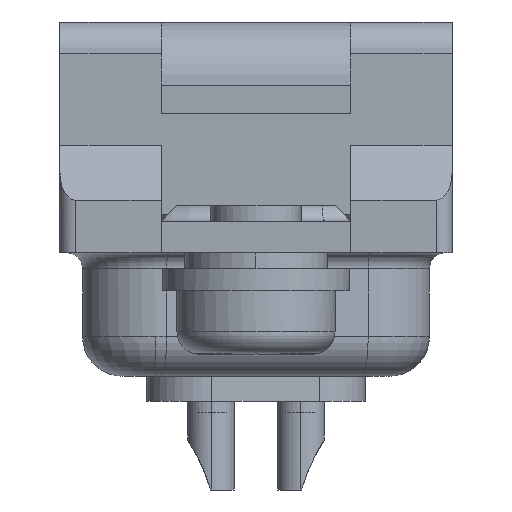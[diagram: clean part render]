
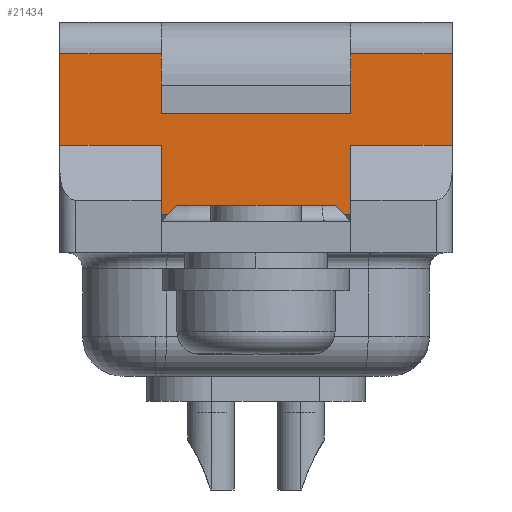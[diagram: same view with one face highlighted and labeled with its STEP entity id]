
A CAD part, left-side view. The second image highlights one B-rep face of the part: STEP entity #21434.
In plain terms, the highlighted planar face has unit normal (-1, 0, 0).
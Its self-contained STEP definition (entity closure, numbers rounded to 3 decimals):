
#50 = CARTESIAN_POINT ( 'NONE',  ( -34.7, -3., 3.9 ) ) ;
#327 = DIRECTION ( 'NONE',  ( 0., 0., 1. ) ) ;
#387 = VECTOR ( 'NONE', #327, 1000. ) ;
#784 = CARTESIAN_POINT ( 'NONE',  ( -34.7, 6.2, 2.9 ) ) ;
#1012 = VERTEX_POINT ( 'NONE', #10204 ) ;
#1034 = VERTEX_POINT ( 'NONE', #10473 ) ;
#1117 = VERTEX_POINT ( 'NONE', #50 ) ;
#1161 = VECTOR ( 'NONE', #24447, 1000. ) ;
#1502 = DIRECTION ( 'NONE',  ( 0., 0.707, -0.707 ) ) ;
#1865 = ORIENTED_EDGE ( 'NONE', *, *, #9058, .F. ) ;
#1954 = VERTEX_POINT ( 'NONE', #9113 ) ;
#1986 = ORIENTED_EDGE ( 'NONE', *, *, #9444, .T. ) ;
#2193 = DIRECTION ( 'NONE',  ( 0., -1., 0. ) ) ;
#2617 = CARTESIAN_POINT ( 'NONE',  ( -34.7, -3., 0.7 ) ) ;
#2953 = EDGE_CURVE ( 'NONE', #19240, #1012, #13397, .T. ) ;
#3473 = VERTEX_POINT ( 'NONE', #16808 ) ;
#3481 = CARTESIAN_POINT ( 'NONE',  ( -34.7, -6.2, 5.8 ) ) ;
#3769 = ORIENTED_EDGE ( 'NONE', *, *, #26334, .T. ) ;
#3771 = DIRECTION ( 'NONE',  ( 0., -1., 0. ) ) ;
#3933 = ORIENTED_EDGE ( 'NONE', *, *, #5764, .F. ) ;
#3971 = VECTOR ( 'NONE', #19853, 1000. ) ;
#4096 = EDGE_CURVE ( 'NONE', #1954, #5009, #26788, .T. ) ;
#4147 = ORIENTED_EDGE ( 'NONE', *, *, #5774, .T. ) ;
#4382 = CARTESIAN_POINT ( 'NONE',  ( -34.7, 3., 2.9 ) ) ;
#4433 = VERTEX_POINT ( 'NONE', #18368 ) ;
#4637 = ORIENTED_EDGE ( 'NONE', *, *, #25312, .F. ) ;
#4745 = CARTESIAN_POINT ( 'NONE',  ( -34.7, 0., 5.8 ) ) ;
#5009 = VERTEX_POINT ( 'NONE', #15055 ) ;
#5030 = VECTOR ( 'NONE', #25276, 1000. ) ;
#5185 = VERTEX_POINT ( 'NONE', #15240 ) ;
#5327 = CARTESIAN_POINT ( 'NONE',  ( -34.7, 3., 6.8 ) ) ;
#5692 = LINE ( 'NONE', #12372, #12728 ) ;
#5764 = EDGE_CURVE ( 'NONE', #1954, #5185, #26750, .T. ) ;
#5774 = EDGE_CURVE ( 'NONE', #24164, #19892, #15322, .T. ) ;
#5806 = ORIENTED_EDGE ( 'NONE', *, *, #17286, .F. ) ;
#6097 = DIRECTION ( 'NONE',  ( 0., -1., 0. ) ) ;
#6181 = ORIENTED_EDGE ( 'NONE', *, *, #22800, .F. ) ;
#6242 = VECTOR ( 'NONE', #22330, 1000. ) ;
#6246 = VERTEX_POINT ( 'NONE', #13004 ) ;
#6274 = DIRECTION ( 'NONE',  ( -1., 0., 0. ) ) ;
#6737 = CARTESIAN_POINT ( 'NONE',  ( -34.7, 0., 5.8 ) ) ;
#7063 = DIRECTION ( 'NONE',  ( 0., 1., 0. ) ) ;
#7104 = CARTESIAN_POINT ( 'NONE',  ( -34.7, -6.2, 2.9 ) ) ;
#7558 = ORIENTED_EDGE ( 'NONE', *, *, #18617, .F. ) ;
#7764 = LINE ( 'NONE', #21204, #20859 ) ;
#7879 = ORIENTED_EDGE ( 'NONE', *, *, #4096, .T. ) ;
#8001 = DIRECTION ( 'NONE',  ( 0., -1., 0. ) ) ;
#8003 = EDGE_CURVE ( 'NONE', #13332, #1034, #10226, .T. ) ;
#9058 = EDGE_CURVE ( 'NONE', #1012, #9892, #11494, .T. ) ;
#9113 = CARTESIAN_POINT ( 'NONE',  ( -34.7, 3., 5.8 ) ) ;
#9377 = DIRECTION ( 'NONE',  ( 0., 0., -1. ) ) ;
#9444 = EDGE_CURVE ( 'NONE', #19892, #3473, #25562, .T. ) ;
#9892 = VERTEX_POINT ( 'NONE', #15356 ) ;
#10069 = ORIENTED_EDGE ( 'NONE', *, *, #16863, .T. ) ;
#10204 = CARTESIAN_POINT ( 'NONE',  ( -34.7, -2.5, 1. ) ) ;
#10226 = LINE ( 'NONE', #19046, #26700 ) ;
#10473 = CARTESIAN_POINT ( 'NONE',  ( -34.7, 2.8, 0.7 ) ) ;
#10666 = DIRECTION ( 'NONE',  ( 0., 0., 1. ) ) ;
#11494 = LINE ( 'NONE', #19699, #1161 ) ;
#12024 = ORIENTED_EDGE ( 'NONE', *, *, #17663, .T. ) ;
#12053 = VECTOR ( 'NONE', #8001, 1000. ) ;
#12135 = VECTOR ( 'NONE', #7063, 1000. ) ;
#12242 = LINE ( 'NONE', #19137, #21678 ) ;
#12372 = CARTESIAN_POINT ( 'NONE',  ( -34.7, 6.2, 0.7 ) ) ;
#12463 = AXIS2_PLACEMENT_3D ( 'NONE', #12991, #6274, #2193 ) ;
#12728 = VECTOR ( 'NONE', #3771, 1000. ) ;
#12813 = PLANE ( 'NONE',  #12463 ) ;
#12991 = CARTESIAN_POINT ( 'NONE',  ( -34.7, 0., 1.612 ) ) ;
#13004 = CARTESIAN_POINT ( 'NONE',  ( -34.7, 3., 2.9 ) ) ;
#13332 = VERTEX_POINT ( 'NONE', #14690 ) ;
#13378 = LINE ( 'NONE', #26887, #17072 ) ;
#13397 = LINE ( 'NONE', #25369, #5030 ) ;
#13626 = VECTOR ( 'NONE', #9377, 1000. ) ;
#14109 = CARTESIAN_POINT ( 'NONE',  ( -34.7, 3., 0.5 ) ) ;
#14280 = ORIENTED_EDGE ( 'NONE', *, *, #17121, .T. ) ;
#14656 = VECTOR ( 'NONE', #1502, 1000. ) ;
#14690 = CARTESIAN_POINT ( 'NONE',  ( -34.7, 3., 0.7 ) ) ;
#15055 = CARTESIAN_POINT ( 'NONE',  ( -34.7, 6.2, 5.8 ) ) ;
#15240 = CARTESIAN_POINT ( 'NONE',  ( -34.7, 3., 3.9 ) ) ;
#15322 = LINE ( 'NONE', #24369, #6242 ) ;
#15356 = CARTESIAN_POINT ( 'NONE',  ( -34.7, 2.5, 1. ) ) ;
#15675 = ORIENTED_EDGE ( 'NONE', *, *, #2953, .F. ) ;
#16030 = VECTOR ( 'NONE', #17617, 1000. ) ;
#16740 = VECTOR ( 'NONE', #17605, 1000. ) ;
#16808 = CARTESIAN_POINT ( 'NONE',  ( -34.7, -3., 5.8 ) ) ;
#16863 = EDGE_CURVE ( 'NONE', #4433, #24164, #20121, .T. ) ;
#16988 = LINE ( 'NONE', #14109, #14656 ) ;
#17072 = VECTOR ( 'NONE', #18688, 1000. ) ;
#17121 = EDGE_CURVE ( 'NONE', #17235, #4433, #20787, .T. ) ;
#17228 = CARTESIAN_POINT ( 'NONE',  ( -34.7, -3., 2.9 ) ) ;
#17235 = VERTEX_POINT ( 'NONE', #2617 ) ;
#17286 = EDGE_CURVE ( 'NONE', #13332, #6246, #23809, .T. ) ;
#17605 = DIRECTION ( 'NONE',  ( 0., 0., 1. ) ) ;
#17617 = DIRECTION ( 'NONE',  ( 0., 1., 0. ) ) ;
#17631 = ORIENTED_EDGE ( 'NONE', *, *, #8003, .T. ) ;
#17663 = EDGE_CURVE ( 'NONE', #5009, #20280, #23119, .T. ) ;
#18290 = DIRECTION ( 'NONE',  ( 0., -1., 0. ) ) ;
#18368 = CARTESIAN_POINT ( 'NONE',  ( -34.7, -3., 2.9 ) ) ;
#18617 = EDGE_CURVE ( 'NONE', #9892, #1034, #16988, .T. ) ;
#18686 = CARTESIAN_POINT ( 'NONE',  ( -34.7, -3., 2.9 ) ) ;
#18688 = DIRECTION ( 'NONE',  ( 0., 1., 0. ) ) ;
#19046 = CARTESIAN_POINT ( 'NONE',  ( -34.7, 6.2, 0.7 ) ) ;
#19137 = CARTESIAN_POINT ( 'NONE',  ( -34.7, 3., 3.9 ) ) ;
#19240 = VERTEX_POINT ( 'NONE', #24213 ) ;
#19529 = ORIENTED_EDGE ( 'NONE', *, *, #20538, .F. ) ;
#19699 = CARTESIAN_POINT ( 'NONE',  ( -34.7, 2.5, 1. ) ) ;
#19760 = CARTESIAN_POINT ( 'NONE',  ( -34.7, 6.2, 6.8 ) ) ;
#19853 = DIRECTION ( 'NONE',  ( 0., 0., -1. ) ) ;
#19892 = VERTEX_POINT ( 'NONE', #3481 ) ;
#20121 = LINE ( 'NONE', #18686, #12053 ) ;
#20280 = VERTEX_POINT ( 'NONE', #784 ) ;
#20538 = EDGE_CURVE ( 'NONE', #6246, #20280, #13378, .T. ) ;
#20787 = LINE ( 'NONE', #17228, #387 ) ;
#20859 = VECTOR ( 'NONE', #10666, 1000. ) ;
#21204 = CARTESIAN_POINT ( 'NONE',  ( -34.7, -3., 6.8 ) ) ;
#21434 = ADVANCED_FACE ( 'NONE', ( #26114 ), #12813, .T. ) ;
#21678 = VECTOR ( 'NONE', #18290, 1000. ) ;
#22330 = DIRECTION ( 'NONE',  ( 0., 0., 1. ) ) ;
#22800 = EDGE_CURVE ( 'NONE', #5185, #1117, #12242, .T. ) ;
#23119 = LINE ( 'NONE', #19760, #3971 ) ;
#23809 = LINE ( 'NONE', #4382, #16740 ) ;
#24164 = VERTEX_POINT ( 'NONE', #7104 ) ;
#24213 = CARTESIAN_POINT ( 'NONE',  ( -34.7, -2.8, 0.7 ) ) ;
#24369 = CARTESIAN_POINT ( 'NONE',  ( -34.7, -6.2, 6.8 ) ) ;
#24447 = DIRECTION ( 'NONE',  ( 0., 1., 0. ) ) ;
#25276 = DIRECTION ( 'NONE',  ( 0., 0.707, 0.707 ) ) ;
#25312 = EDGE_CURVE ( 'NONE', #1117, #3473, #7764, .T. ) ;
#25323 = EDGE_LOOP ( 'NONE', ( #4147, #1986, #4637, #6181, #3933, #7879, #12024, #19529, #5806, #17631, #7558, #1865, #15675, #3769, #14280, #10069 ) ) ;
#25369 = CARTESIAN_POINT ( 'NONE',  ( -34.7, -2.5, 1. ) ) ;
#25562 = LINE ( 'NONE', #4745, #12135 ) ;
#26114 = FACE_OUTER_BOUND ( 'NONE', #25323, .T. ) ;
#26334 = EDGE_CURVE ( 'NONE', #19240, #17235, #5692, .T. ) ;
#26700 = VECTOR ( 'NONE', #6097, 1000. ) ;
#26750 = LINE ( 'NONE', #5327, #13626 ) ;
#26788 = LINE ( 'NONE', #6737, #16030 ) ;
#26887 = CARTESIAN_POINT ( 'NONE',  ( -34.7, 3., 2.9 ) ) ;
